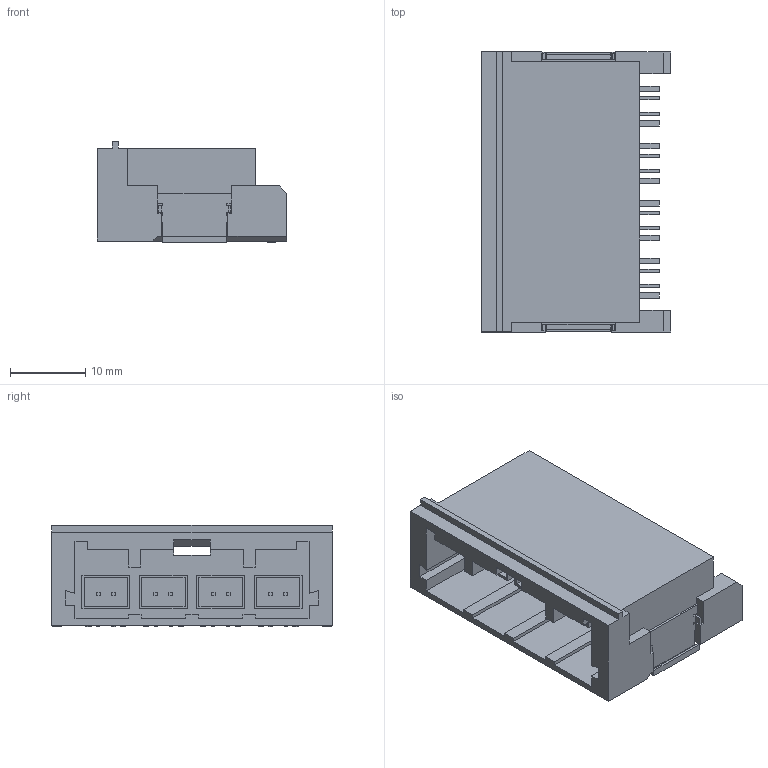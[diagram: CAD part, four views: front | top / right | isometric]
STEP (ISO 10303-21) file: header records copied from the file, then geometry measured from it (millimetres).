
FILE_DESCRIPTION(('CATIA V5 STEP','CAx-IF Rec.Pracs.--- Model Styling and Organization---1.5--- 2016-08-15','CAx-IF Rec.Pracs.---Supplemental Geometry---1.0---2011-11-01','CAx-IF Rec.Pracs.--- Composite Materials ---1.1---2010-07-15'),'2;1');
FILE_NAME('\\fss02.ad.sws.co.jp\fs100070\事務・購入\特命業務\特-35ｰ部品総合カタログメンテナンス\26年度\WEBカタログ用3D\260612_webカタログ新規登録用簡易3D\モデル保存場所\HFD-S2シリーズ\6910-9333.stp','2026-06-25T09:15:09+00:00',('none'),('none'),'CATIA Version 5-6 Release 2022 SP2 HF23','CATIA V5 STEP AP214 v2','none');
FILE_SCHEMA(('AUTOMOTIVE_DESIGN { 1 0 10303 214 1 1 1 1 }'));
Length unit declared in the file: millimetre
Products named in the file (1): 6910-9333
Bounding box: 25.1 x 37.1 x 13.41 mm (x, y, z)
Volume: 5255.9 mm3; surface area: 6285.4 mm2
Topology: 13 solids, 13 shells, 371 faces, 1015 edges, 673 vertices
Faces by surface type: plane 367, cylinder 2, extrusion 2
Entity records: 10897 total; most frequent: ORIENTED_EDGE 2030, CARTESIAN_POINT 1905, DIRECTION 1399, EDGE_CURVE 1015, VECTOR 999, LINE 997, VERTEX_POINT 673, EDGE_LOOP 384
